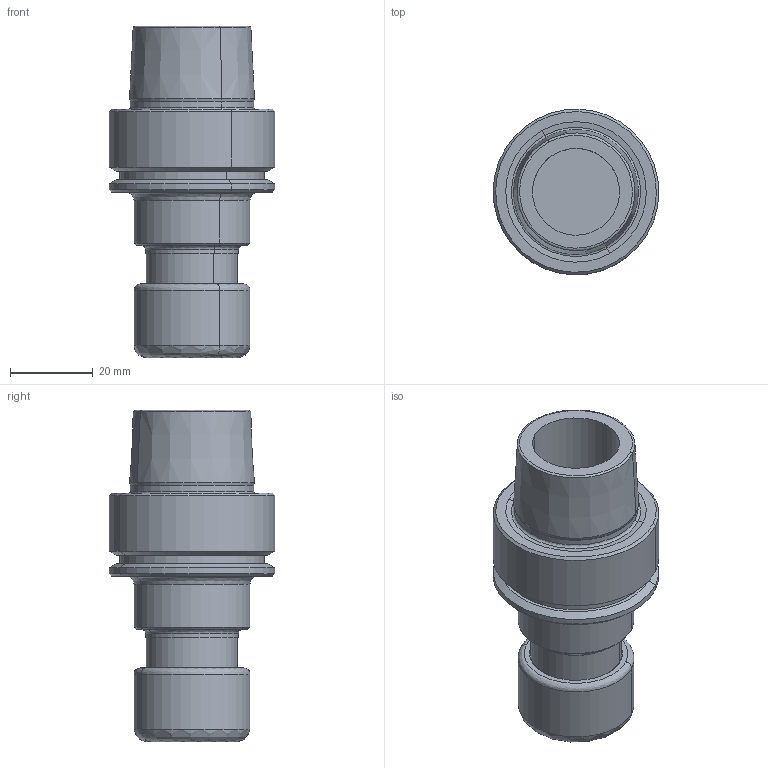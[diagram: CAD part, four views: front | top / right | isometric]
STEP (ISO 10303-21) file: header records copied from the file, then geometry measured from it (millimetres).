
FILE_DESCRIPTION(('CATIA V5 STEP','CAx-IF Rec.Pracs.--- Model Styling and Organization---1.2---2011-12-15'),'2;1');
FILE_NAME('I:\isr\design\admin8\users\weaam_s\401104155-STPD.stp','2016-11-22T05:20:35+00:00',('none'),('none'),'CATIA Version 5 Release 21 SP 5 (IN-10)','CATIA V5 STEP AP214','none');
FILE_SCHEMA(('AUTOMOTIVE_DESIGN { 1 0 10303 214 1 1 1 1 }'));
Length unit declared in the file: millimetre
Products named in the file (1): HSK A 40 ER16X 60
Bounding box: 39.99 x 39.99 x 80 mm (x, y, z)
Volume: 45541.5 mm3; surface area: 13855.2 mm2
Topology: 1 solids, 1 shells, 71 faces, 140 edges, 80 vertices
Faces by surface type: cylinder 24, cone 20, revolution 16, plane 11
Entity records: 2076 total; most frequent: CARTESIAN_POINT 651, ORIENTED_EDGE 280, DIRECTION 208, EDGE_CURVE 140, AXIS2_PLACEMENT_3D 115, CIRCLE 80, EDGE_LOOP 80, VERTEX_POINT 80
